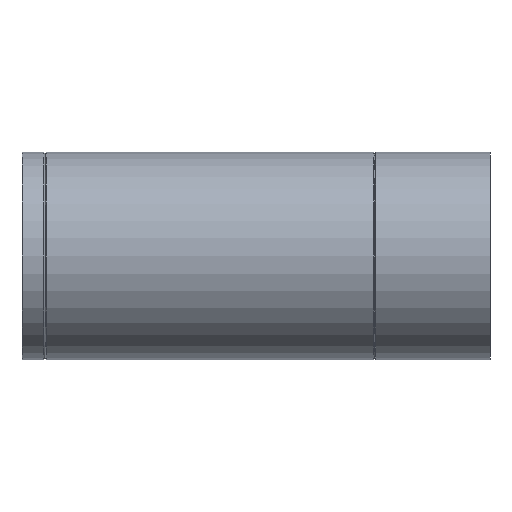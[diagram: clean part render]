
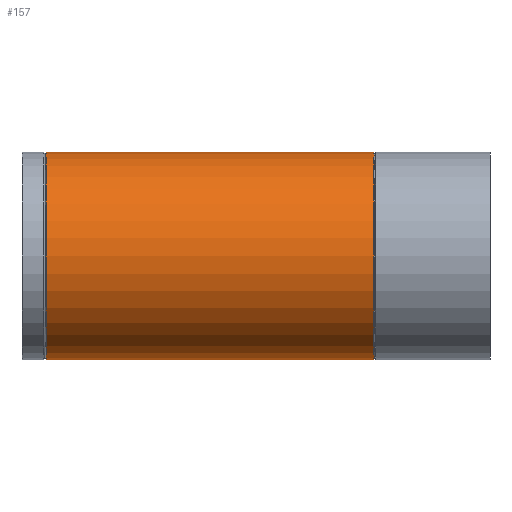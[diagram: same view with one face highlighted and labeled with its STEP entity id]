
A CAD part, left-side view. The second image highlights one B-rep face of the part: STEP entity #157.
In plain terms, the highlighted cylindrical face has radius 45 mm (diameter 90 mm), a full revolution.
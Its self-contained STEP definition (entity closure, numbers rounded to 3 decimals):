
#16=B_SPLINE_CURVE_WITH_KNOTS($,3,(#267,#268,#269,#270,#271,#272,#273,#274,
#275,#276,#277,#278,#279,#280,#281,#282,#283,#284,#285,#286,#287,#288,#289,
#290,#291,#292,#293,#294,#295,#296,#297,#298,#299,#300,#301,#302,#303,#304,
#305,#306,#307,#308,#309,#310,#311,#312,#313,#314,#315,#316,#317,#318,#319,
#320,#321,#322,#323,#324,#325,#326,#327,#328,#329,#330,#331,#332),
 .UNSPECIFIED.,.T.,.F.,(4,2,2,2,2,2,2,2,2,2,2,2,2,2,2,2,2,2,2,2,2,2,2,2,
2,2,2,2,2,2,2,2,4),(0.,0.789,1.579,2.368,
3.158,3.907,4.656,5.406,6.155,
6.904,7.653,8.403,9.152,9.941,
10.731,11.52,12.31,13.083,13.856,
14.629,15.402,16.151,16.9,17.649,
18.398,19.147,19.896,20.646,21.395,
22.168,22.941,23.714,24.487),
 .UNSPECIFIED.);
#19=CYLINDRICAL_SURFACE($,#180,45.);
#29=FACE_BOUND($,#63,.T.);
#30=FACE_BOUND($,#64,.T.);
#48=FACE_OUTER_BOUND($,#62,.T.);
#62=EDGE_LOOP($,(#130));
#63=EDGE_LOOP($,(#131));
#64=EDGE_LOOP($,(#132));
#81=CIRCLE($,#170,45.);
#86=CIRCLE($,#179,45.);
#93=VERTEX_POINT($,#249);
#98=VERTEX_POINT($,#263);
#99=VERTEX_POINT($,#266);
#107=EDGE_CURVE($,#93,#93,#81,.T.);
#112=EDGE_CURVE($,#98,#98,#86,.T.);
#113=EDGE_CURVE($,#99,#99,#16,.T.);
#130=ORIENTED_EDGE($,*,*,#107,.T.);
#131=ORIENTED_EDGE($,*,*,#113,.T.);
#132=ORIENTED_EDGE($,*,*,#112,.T.);
#157=ADVANCED_FACE($,(#48,#29,#30),#19,.T.);
#170=AXIS2_PLACEMENT_3D($,#250,#199,#200);
#179=AXIS2_PLACEMENT_3D($,#264,#217,#218);
#180=AXIS2_PLACEMENT_3D($,#265,#219,#220);
#199=DIRECTION('center_axis',(0.,-1.,0.));
#200=DIRECTION('ref_axis',(1.,0.,0.));
#217=DIRECTION('center_axis',(0.,1.,0.));
#218=DIRECTION('ref_axis',(1.,0.,0.));
#219=DIRECTION('center_axis',(0.,1.,0.));
#220=DIRECTION('ref_axis',(1.,0.,0.));
#249=CARTESIAN_POINT('',(45.,192.48,0.));
#250=CARTESIAN_POINT('Origin',(0.,192.48,0.));
#263=CARTESIAN_POINT('',(45.,50.52,0.));
#264=CARTESIAN_POINT('Origin',(0.,50.52,0.));
#265=CARTESIAN_POINT('Origin',(0.,0.,0.));
#266=CARTESIAN_POINT('',(24.875,120.651,37.5));
#267=CARTESIAN_POINT('Ctrl Pts',(24.875,120.651,37.5));
#268=CARTESIAN_POINT('Ctrl Pts',(24.875,123.283,37.5));
#269=CARTESIAN_POINT('Ctrl Pts',(25.302,125.859,37.224));
#270=CARTESIAN_POINT('Ctrl Pts',(26.754,130.834,36.194));
#271=CARTESIAN_POINT('Ctrl Pts',(27.772,133.234,35.439));
#272=CARTESIAN_POINT('Ctrl Pts',(30.073,137.805,33.509));
#273=CARTESIAN_POINT('Ctrl Pts',(31.355,139.976,32.332));
#274=CARTESIAN_POINT('Ctrl Pts',(33.925,144.014,29.624));
#275=CARTESIAN_POINT('Ctrl Pts',(35.213,145.879,28.093));
#276=CARTESIAN_POINT('Ctrl Pts',(37.543,149.133,24.885));
#277=CARTESIAN_POINT('Ctrl Pts',(38.68,150.656,23.104));
#278=CARTESIAN_POINT('Ctrl Pts',(40.775,153.399,19.166));
#279=CARTESIAN_POINT('Ctrl Pts',(41.732,154.618,17.009));
#280=CARTESIAN_POINT('Ctrl Pts',(43.317,156.614,12.43));
#281=CARTESIAN_POINT('Ctrl Pts',(43.946,157.393,10.003));
#282=CARTESIAN_POINT('Ctrl Pts',(44.788,158.432,5.037));
#283=CARTESIAN_POINT('Ctrl Pts',(45.,158.691,2.498));
#284=CARTESIAN_POINT('Ctrl Pts',(45.,158.691,-2.498));
#285=CARTESIAN_POINT('Ctrl Pts',(44.788,158.432,-5.037));
#286=CARTESIAN_POINT('Ctrl Pts',(43.946,157.393,-10.003));
#287=CARTESIAN_POINT('Ctrl Pts',(43.317,156.614,-12.43));
#288=CARTESIAN_POINT('Ctrl Pts',(41.732,154.618,-17.009));
#289=CARTESIAN_POINT('Ctrl Pts',(40.775,153.399,-19.166));
#290=CARTESIAN_POINT('Ctrl Pts',(38.68,150.656,-23.104));
#291=CARTESIAN_POINT('Ctrl Pts',(37.543,149.133,-24.885));
#292=CARTESIAN_POINT('Ctrl Pts',(35.213,145.879,-28.093));
#293=CARTESIAN_POINT('Ctrl Pts',(33.925,144.014,-29.624));
#294=CARTESIAN_POINT('Ctrl Pts',(31.355,139.976,-32.332));
#295=CARTESIAN_POINT('Ctrl Pts',(30.073,137.805,-33.509));
#296=CARTESIAN_POINT('Ctrl Pts',(27.772,133.234,-35.439));
#297=CARTESIAN_POINT('Ctrl Pts',(26.754,130.834,-36.194));
#298=CARTESIAN_POINT('Ctrl Pts',(25.302,125.859,-37.224));
#299=CARTESIAN_POINT('Ctrl Pts',(24.875,123.283,-37.5));
#300=CARTESIAN_POINT('Ctrl Pts',(24.875,118.075,-37.5));
#301=CARTESIAN_POINT('Ctrl Pts',(25.286,115.549,-37.234));
#302=CARTESIAN_POINT('Ctrl Pts',(26.711,110.684,-36.225));
#303=CARTESIAN_POINT('Ctrl Pts',(27.717,108.342,-35.482));
#304=CARTESIAN_POINT('Ctrl Pts',(29.999,103.899,-33.575));
#305=CARTESIAN_POINT('Ctrl Pts',(31.275,101.795,-32.409));
#306=CARTESIAN_POINT('Ctrl Pts',(33.834,97.893,-29.727));
#307=CARTESIAN_POINT('Ctrl Pts',(35.118,96.097,-28.21));
#308=CARTESIAN_POINT('Ctrl Pts',(37.463,92.937,-25.007));
#309=CARTESIAN_POINT('Ctrl Pts',(38.618,91.449,-23.21));
#310=CARTESIAN_POINT('Ctrl Pts',(40.741,88.778,-19.241));
#311=CARTESIAN_POINT('Ctrl Pts',(41.709,87.596,-17.067));
#312=CARTESIAN_POINT('Ctrl Pts',(43.309,85.664,-12.461));
#313=CARTESIAN_POINT('Ctrl Pts',(43.942,84.913,-10.022));
#314=CARTESIAN_POINT('Ctrl Pts',(44.788,83.913,-5.04));
#315=CARTESIAN_POINT('Ctrl Pts',(45.,83.666,-2.497));
#316=CARTESIAN_POINT('Ctrl Pts',(45.,83.666,2.497));
#317=CARTESIAN_POINT('Ctrl Pts',(44.788,83.913,5.04));
#318=CARTESIAN_POINT('Ctrl Pts',(43.942,84.913,10.022));
#319=CARTESIAN_POINT('Ctrl Pts',(43.309,85.664,12.461));
#320=CARTESIAN_POINT('Ctrl Pts',(41.709,87.596,17.067));
#321=CARTESIAN_POINT('Ctrl Pts',(40.741,88.778,19.241));
#322=CARTESIAN_POINT('Ctrl Pts',(38.618,91.449,23.21));
#323=CARTESIAN_POINT('Ctrl Pts',(37.463,92.937,25.007));
#324=CARTESIAN_POINT('Ctrl Pts',(35.118,96.097,28.21));
#325=CARTESIAN_POINT('Ctrl Pts',(33.834,97.893,29.727));
#326=CARTESIAN_POINT('Ctrl Pts',(31.275,101.795,32.409));
#327=CARTESIAN_POINT('Ctrl Pts',(29.999,103.899,33.575));
#328=CARTESIAN_POINT('Ctrl Pts',(27.717,108.342,35.482));
#329=CARTESIAN_POINT('Ctrl Pts',(26.711,110.684,36.225));
#330=CARTESIAN_POINT('Ctrl Pts',(25.286,115.549,37.234));
#331=CARTESIAN_POINT('Ctrl Pts',(24.875,118.075,37.5));
#332=CARTESIAN_POINT('Ctrl Pts',(24.875,120.651,37.5));
